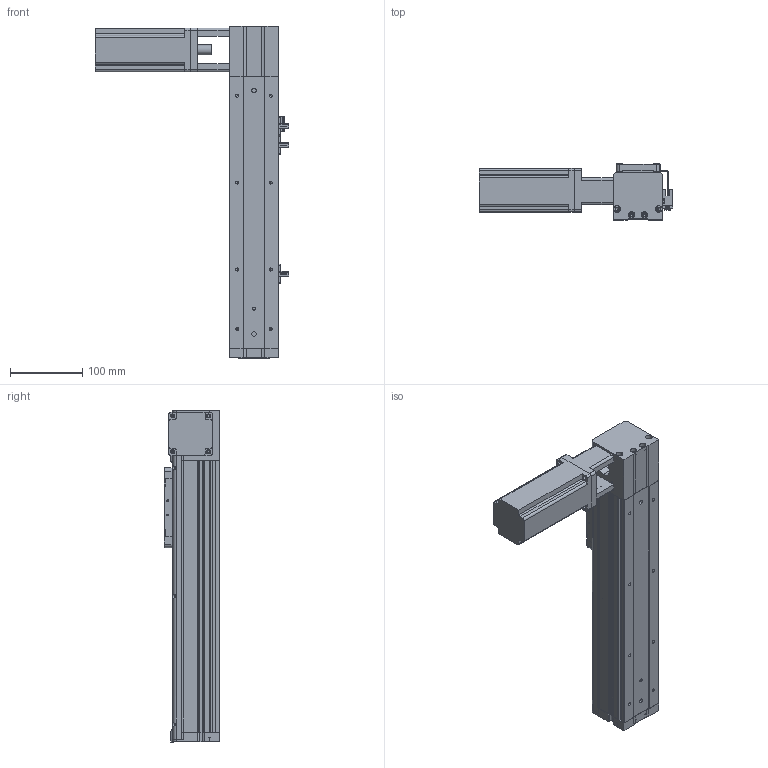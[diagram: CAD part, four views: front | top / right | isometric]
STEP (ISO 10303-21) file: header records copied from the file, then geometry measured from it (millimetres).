
FILE_DESCRIPTION (( 'STEP AP214' ), '1' );
FILE_NAME ('KSD68BS-S200-MLT-CR.STEP', '2019-08-28T03:13:49', ( '微软用户' ), ( '微软中国' ), 'SwSTEP 2.0', 'SolidWorks 2014', '' );
FILE_SCHEMA (( 'AUTOMOTIVE_DESIGN' ));
Length unit declared in the file: millimetre
Products named in the file (13): 100遵鎮湛假蚾啣1; KSD68BS 200行程盖板全封闭; 68遵裔啣揤啣1; 68宽单导轨全封闭丝杆传动安装板1防护罩; KSD68BS 200行程侧板全封闭; 68宽单导轨全封闭同步带端板; 68单导轨全封闭同步带电机座右; 68单导轨全封闭同步带安装板; 感应片68宽全封闭; U倰嫖萇EEㄜSX672; 台达ECMA－C20604AS伺服电机（400W); KSD68BS 200行程底板全封闭; KSD68BS-S200-MLT-CR
Assembly tree (16 placements, depth 2):
  KSD68BS-S200-MLT-CR
    KSD68BS 200行程底板全封闭
    台达ECMA－C20604AS伺服电机（400W)
    U倰嫖萇EEㄜSX672  x3
    感应片68宽全封闭
    68单导轨全封闭同步带安装板
    68单导轨全封闭同步带电机座右
    68宽单导轨全封闭同步带端板
    KSD68BS 200行程侧板全封闭  x2
    68宽单导轨全封闭丝杆传动安装板1防护罩
    68遵裔啣揤啣1  x2
    KSD68BS 200行程盖板全封闭
    100遵鎮湛假蚾啣1
Bounding box: 266.4 x 77 x 458.1 mm (x, y, z)
Volume: 1408978.1 mm3; surface area: 424625.2 mm2
Topology: 17 solids, 17 shells, 1288 faces, 3612 edges, 2321 vertices
Faces by surface type: plane 596, cylinder 564, cone 128
Entity records: 39293 total; most frequent: CARTESIAN_POINT 6529, DIRECTION 5908, ORIENTED_EDGE 5668, EDGE_CURVE 2834, AXIS2_PLACEMENT_3D 2090, VERTEX_POINT 1859, VECTOR 1728, LINE 1728
